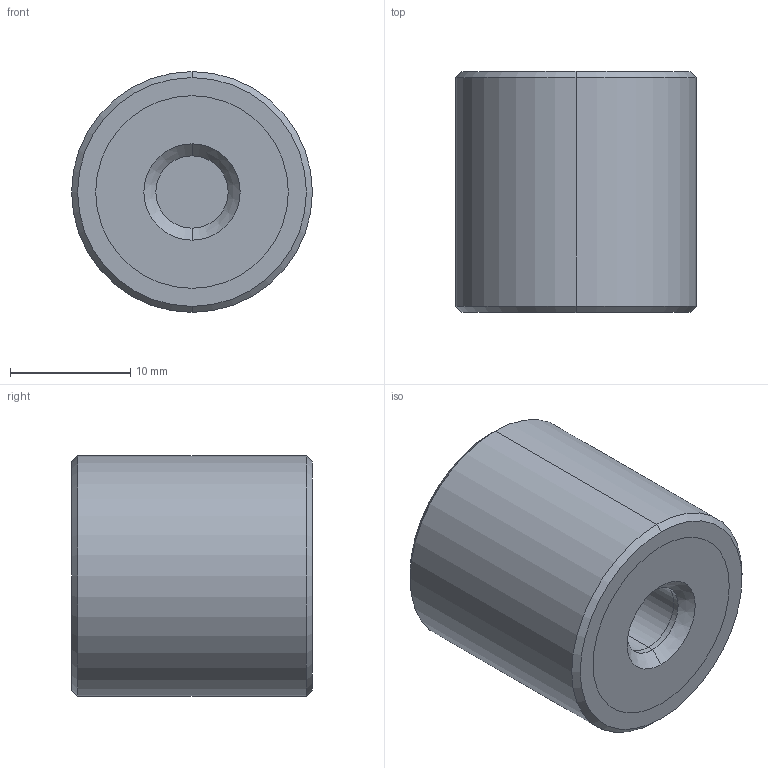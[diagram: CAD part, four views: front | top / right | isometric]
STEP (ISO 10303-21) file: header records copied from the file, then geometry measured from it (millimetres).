
FILE_DESCRIPTION (( 'STEP AP203' ), '1' );
FILE_NAME ('61080.W0201.step', '2018-07-16T20:42:24', ( '' ), ( '' ), 'SwSTEP 2.0', 'SolidWorks 2017', '' );
FILE_SCHEMA (( 'CONFIG_CONTROL_DESIGN' ));
Length unit declared in the file: millimetre
Products named in the file (4): Part1_61080.W0201; Part3_61080.W0201; 61080.W0201; Part2_61080.W0201
Assembly tree (3 placements, depth 2):
  61080.W0201
    Part1_61080.W0201
    Part2_61080.W0201
    Part3_61080.W0201
Bounding box: 20 x 20 x 20 mm (x, y, z)
Volume: 5907.5 mm3; surface area: 3047 mm2
Topology: 3 solids, 3 shells, 36 faces, 70 edges, 44 vertices
Faces by surface type: cylinder 18, plane 10, cone 8
Entity records: 1356 total; most frequent: DIRECTION 198, CARTESIAN_POINT 156, ORIENTED_EDGE 140, AXIS2_PLACEMENT_3D 86, EDGE_CURVE 70, EDGE_LOOP 44, CIRCLE 44, VERTEX_POINT 44
